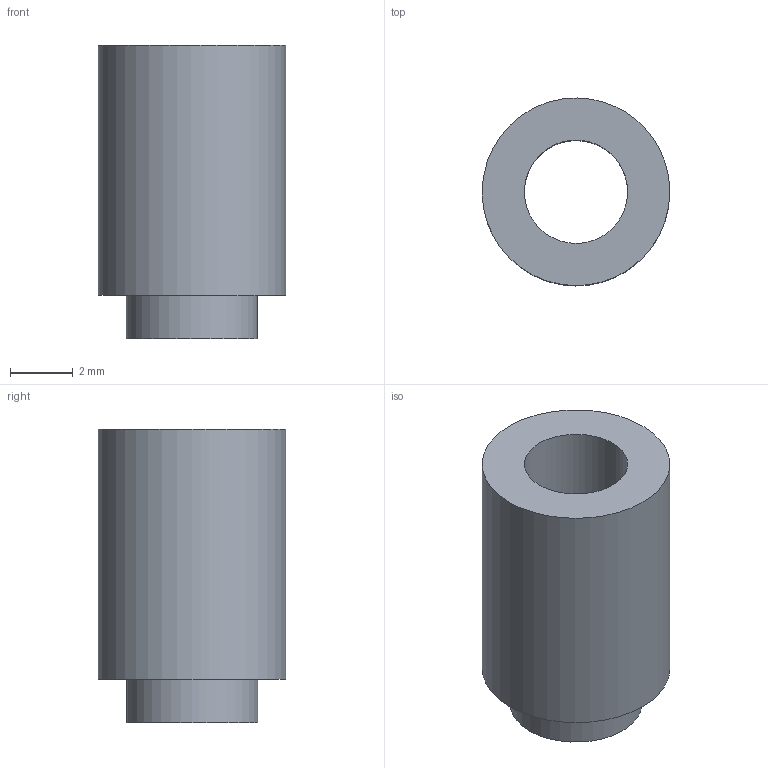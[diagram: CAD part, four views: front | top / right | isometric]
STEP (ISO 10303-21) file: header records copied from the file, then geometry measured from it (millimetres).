
FILE_DESCRIPTION(('FreeCAD Model'),'2;1');
FILE_NAME('Open CASCADE Shape Model','2026-03-20T17:23:24',('Author'),( ''),'Open CASCADE STEP processor 7.8','FreeCAD','Unknown');
FILE_SCHEMA(('AP242_MANAGED_MODEL_BASED_3D_ENGINEERING_MIM_LF. {1 0 10303 442 1 1 4 }'));
Length unit declared in the file: millimetre
Products named in the file (1): 1_transformed
Bounding box: 6 x 6 x 9.4 mm (x, y, z)
Volume: 166.6 mm3; surface area: 306.9 mm2
Topology: 1 solids, 1 shells, 6 faces, 9 edges, 6 vertices
Faces by surface type: bspline 6
Entity records: 201 total; most frequent: CARTESIAN_POINT 109, ORIENTED_EDGE 18, FACE_BOUND 9, EDGE_LOOP 9, EDGE_CURVE 9, ADVANCED_FACE 6, VERTEX_POINT 6, B_SPLINE_SURFACE_WITH_KNOTS 3
